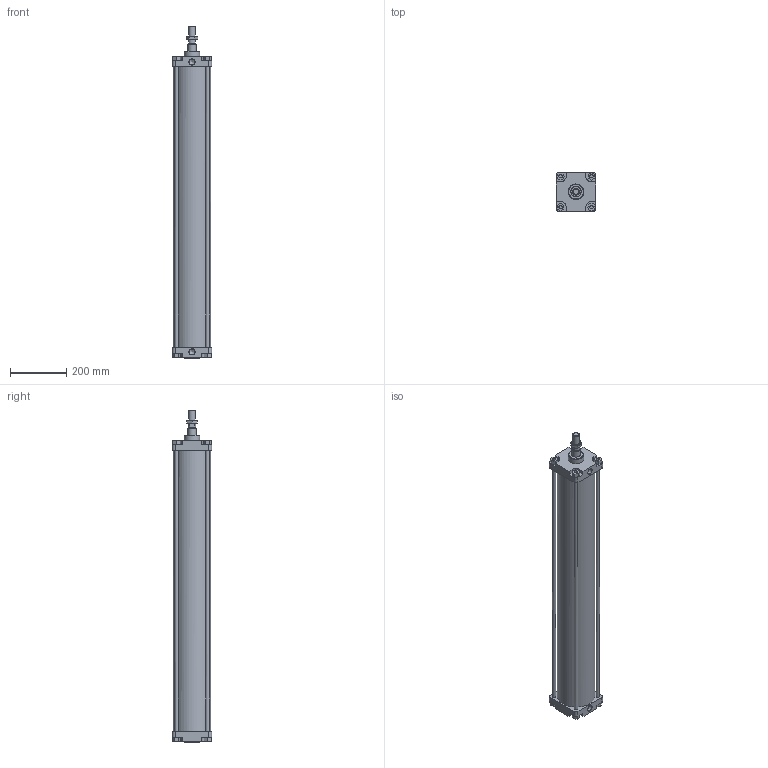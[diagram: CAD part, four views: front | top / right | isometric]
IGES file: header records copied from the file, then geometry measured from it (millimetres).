
Global section: file name: 1304_125_0900_01A; native system: Autodesk Inventor 2014; preprocessor: unknown; author: A. Manieri; date: 20161124.142542; units: millimetre
Bounding box: 140 x 140 x 1180 mm (x, y, z)
Volume: 5280624.5 mm3; surface area: 1271118 mm2
Topology: 9 solids, 9 shells, 175 faces, 440 edges, 295 vertices
Faces by surface type: bspline 175
